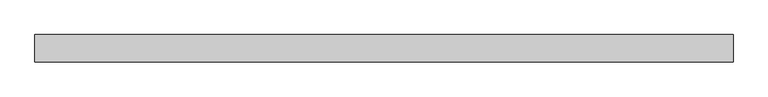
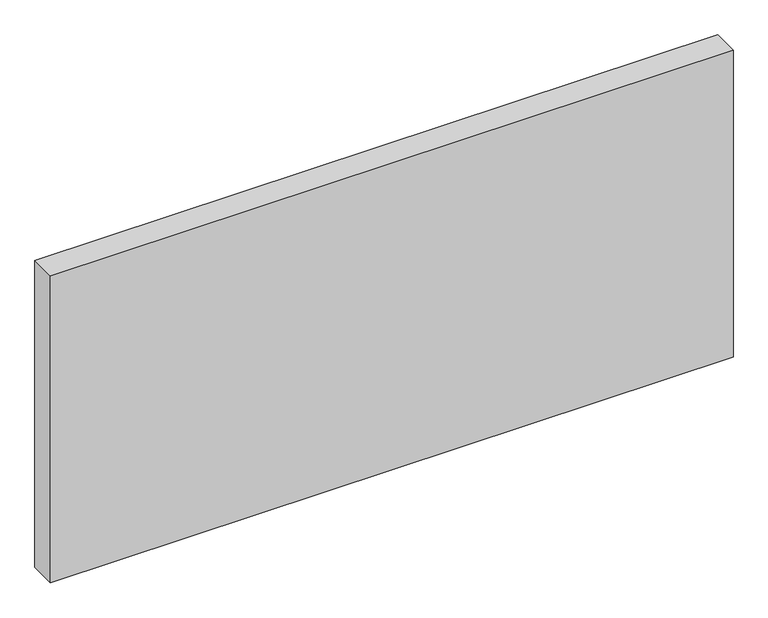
"""IFC4 building model written with IfcOpenShell, lengths in millimetres: plate geometry, 系统嵌板 : 玻璃."""

from ifc_helpers import new_model, si_unit, origin, origin_with_axes, place, context, project, spatial, polyline, outline, extrude, source, transform, mapped, element, save


def plate_7cde3f8c(model_context):
    return source(origin(), model_context, "Body", "SweptSolid", [
        extrude(outline(polyline([(762.5, -30.0), (-762.5, -30.0), (-762.5, 30.0), (762.5, 30.0), (762.5, -30.0)])), origin_with_axes(), (0.0, 0.0, 1.0), 725.0),
    ])


if __name__ == "__main__":
    model = new_model("IFC4")
    model_context = context("Model", 3, world=origin())
    ifc_project = project(units=[si_unit("LENGTHUNIT", "METRE", prefix="MILLI")], contexts=[model_context])
    site = spatial("IfcSite", under=ifc_project)
    building = spatial("IfcBuilding", under=site)
    placement = place(None, origin())
    plate_shape = plate_7cde3f8c(model_context)
    element("IfcPlate", 1, ObjectType="系统嵌板 : 玻璃", at=placement, inside=building, context=model_context, shape_type="MappedRepresentation", body=[
        mapped(plate_shape, transform((0.0, 0.0, 0.0), x_axis=(1.0, 0.0, 0.0), y_axis=(0.0, 1.0, 0.0), z_axis=(0.0, 0.0, 1.0))),
    ])
    save(model, "model.ifc")
